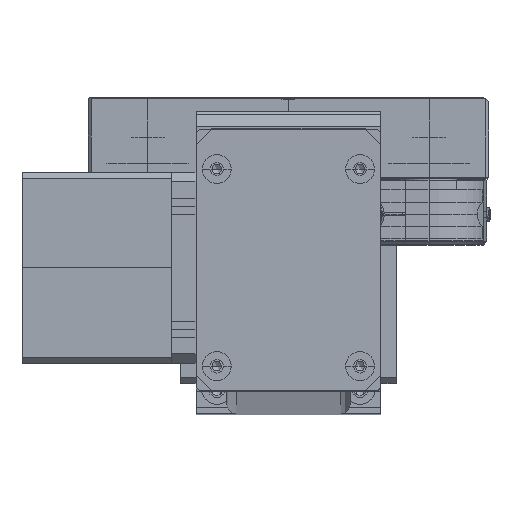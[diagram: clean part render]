
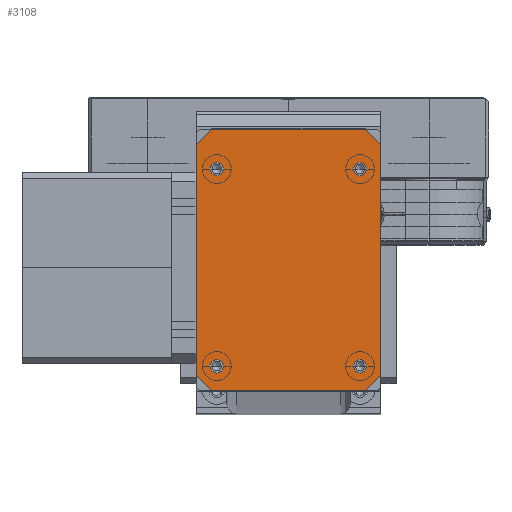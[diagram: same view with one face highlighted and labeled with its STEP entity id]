
A CAD part, top view. The second image highlights one B-rep face of the part: STEP entity #3108.
In plain terms, the highlighted planar face has unit normal (0, 0, 1) as drawn and (0, 0, -1) by its records, which use the part's own axes.
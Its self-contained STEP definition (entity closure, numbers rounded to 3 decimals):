
#42 = VERTEX_POINT ( 'NONE', #1137 ) ;
#101 = CARTESIAN_POINT ( 'NONE',  ( 55.5, 8., 0. ) ) ;
#217 = CARTESIAN_POINT ( 'NONE',  ( 6.75, 8., 0. ) ) ;
#273 = DIRECTION ( 'NONE',  ( 0., 0., -1. ) ) ;
#703 = EDGE_CURVE ( 'NONE', #12837, #14741, #16860, .T. ) ;
#920 = VECTOR ( 'NONE', #5838, 1000. ) ;
#1098 = VERTEX_POINT ( 'NONE', #15007 ) ;
#1137 = CARTESIAN_POINT ( 'NONE',  ( 4.5, 72., 0. ) ) ;
#1202 = VECTOR ( 'NONE', #11401, 1000. ) ;
#1548 = CARTESIAN_POINT ( 'NONE',  ( 51., 72., 0. ) ) ;
#1719 = AXIS2_PLACEMENT_3D ( 'NONE', #12749, #9625, #4556 ) ;
#1908 = VERTEX_POINT ( 'NONE', #7822 ) ;
#1976 = VERTEX_POINT ( 'NONE', #7701 ) ;
#2028 = DIRECTION ( 'NONE',  ( -1., 0., 0. ) ) ;
#2083 = CARTESIAN_POINT ( 'NONE',  ( 9., 72., 0. ) ) ;
#2292 = DIRECTION ( 'NONE',  ( -1., 0., 0. ) ) ;
#2297 = AXIS2_PLACEMENT_3D ( 'NONE', #14552, #4540, #6243 ) ;
#2303 = EDGE_CURVE ( 'NONE', #18530, #16286, #5837, .T. ) ;
#2306 = VERTEX_POINT ( 'NONE', #13808 ) ;
#2454 = CARTESIAN_POINT ( 'NONE',  ( 6.75, 72., 0. ) ) ;
#2481 = CARTESIAN_POINT ( 'NONE',  ( 2.5, 2.5, 0. ) ) ;
#3108 = ADVANCED_FACE ( 'NONE', ( #3134, #9704, #6566, #18002, #16509 ), #13052, .T. ) ;
#3134 = FACE_BOUND ( 'NONE', #7512, .T. ) ;
#3325 = LINE ( 'NONE', #13113, #1202 ) ;
#3551 = DIRECTION ( 'NONE',  ( 0., 1., 0. ) ) ;
#3632 = VERTEX_POINT ( 'NONE', #20383 ) ;
#3707 = EDGE_CURVE ( 'NONE', #8071, #42, #11887, .T. ) ;
#3878 = DIRECTION ( 'NONE',  ( 0., -1., 0. ) ) ;
#3939 = CIRCLE ( 'NONE', #14263, 2.25 ) ;
#4303 = CARTESIAN_POINT ( 'NONE',  ( 6.75, 72., 0. ) ) ;
#4362 = AXIS2_PLACEMENT_3D ( 'NONE', #9759, #12610, #14734 ) ;
#4540 = DIRECTION ( 'NONE',  ( 0., 0., -1. ) ) ;
#4549 = VERTEX_POINT ( 'NONE', #11474 ) ;
#4556 = DIRECTION ( 'NONE',  ( -1., 0., 0. ) ) ;
#4647 = ORIENTED_EDGE ( 'NONE', *, *, #4894, .F. ) ;
#4894 = EDGE_CURVE ( 'NONE', #4549, #13913, #15783, .T. ) ;
#5171 = DIRECTION ( 'NONE',  ( -1., 0., 0. ) ) ;
#5215 = EDGE_LOOP ( 'NONE', ( #11481, #4647 ) ) ;
#5371 = CARTESIAN_POINT ( 'NONE',  ( 51., 8., 0. ) ) ;
#5386 = EDGE_CURVE ( 'NONE', #2306, #12300, #19830, .T. ) ;
#5485 = LINE ( 'NONE', #16921, #17545 ) ;
#5742 = CARTESIAN_POINT ( 'NONE',  ( 27.5, -27.5, 0. ) ) ;
#5788 = DIRECTION ( 'NONE',  ( 0., 0., -1. ) ) ;
#5837 = CIRCLE ( 'NONE', #7900, 2.25 ) ;
#5838 = DIRECTION ( 'NONE',  ( -0.707, -0.707, 0. ) ) ;
#5957 = ORIENTED_EDGE ( 'NONE', *, *, #18649, .F. ) ;
#5979 = CIRCLE ( 'NONE', #11840, 2.25 ) ;
#6008 = VECTOR ( 'NONE', #11625, 1000. ) ;
#6243 = DIRECTION ( 'NONE',  ( -1., 0., 0. ) ) ;
#6281 = ORIENTED_EDGE ( 'NONE', *, *, #703, .T. ) ;
#6379 = VECTOR ( 'NONE', #19859, 1000. ) ;
#6566 = FACE_BOUND ( 'NONE', #5215, .T. ) ;
#7448 = CIRCLE ( 'NONE', #4362, 2.25 ) ;
#7512 = EDGE_LOOP ( 'NONE', ( #11028, #11144 ) ) ;
#7701 = CARTESIAN_POINT ( 'NONE',  ( 60., 80., 0. ) ) ;
#7822 = CARTESIAN_POINT ( 'NONE',  ( 0., 5., 0. ) ) ;
#7900 = AXIS2_PLACEMENT_3D ( 'NONE', #16843, #10364, #2292 ) ;
#8039 = ORIENTED_EDGE ( 'NONE', *, *, #15590, .T. ) ;
#8071 = VERTEX_POINT ( 'NONE', #2083 ) ;
#8158 = ORIENTED_EDGE ( 'NONE', *, *, #17828, .F. ) ;
#8360 = CARTESIAN_POINT ( 'NONE',  ( -40., 40., 0. ) ) ;
#8553 = DIRECTION ( 'NONE',  ( -1., 0., 0. ) ) ;
#8961 = ORIENTED_EDGE ( 'NONE', *, *, #2303, .F. ) ;
#9076 = EDGE_CURVE ( 'NONE', #12837, #1976, #13044, .T. ) ;
#9313 = EDGE_CURVE ( 'NONE', #2306, #1908, #5485, .T. ) ;
#9460 = AXIS2_PLACEMENT_3D ( 'NONE', #2454, #5788, #14090 ) ;
#9532 = EDGE_LOOP ( 'NONE', ( #11869, #19120 ) ) ;
#9625 = DIRECTION ( 'NONE',  ( 0., 0., -1. ) ) ;
#9704 = FACE_BOUND ( 'NONE', #13328, .T. ) ;
#9759 = CARTESIAN_POINT ( 'NONE',  ( 6.75, 8., 0. ) ) ;
#9816 = EDGE_CURVE ( 'NONE', #15917, #10642, #18949, .T. ) ;
#10236 = DIRECTION ( 'NONE',  ( 0., 0., -1. ) ) ;
#10244 = CARTESIAN_POINT ( 'NONE',  ( 60., 0., 0. ) ) ;
#10312 = DIRECTION ( 'NONE',  ( 0.707, 0.707, 0. ) ) ;
#10364 = DIRECTION ( 'NONE',  ( 0., 0., -1. ) ) ;
#10496 = CARTESIAN_POINT ( 'NONE',  ( 9., 8., 0. ) ) ;
#10642 = VERTEX_POINT ( 'NONE', #101 ) ;
#10656 = EDGE_CURVE ( 'NONE', #42, #8071, #11158, .T. ) ;
#10786 = DIRECTION ( 'NONE',  ( -0.707, 0.707, 0. ) ) ;
#11028 = ORIENTED_EDGE ( 'NONE', *, *, #3707, .F. ) ;
#11144 = ORIENTED_EDGE ( 'NONE', *, *, #10656, .F. ) ;
#11158 = CIRCLE ( 'NONE', #18048, 2.25 ) ;
#11401 = DIRECTION ( 'NONE',  ( 0.707, -0.707, 0. ) ) ;
#11474 = CARTESIAN_POINT ( 'NONE',  ( 4.5, 8., 0. ) ) ;
#11481 = ORIENTED_EDGE ( 'NONE', *, *, #21292, .F. ) ;
#11625 = DIRECTION ( 'NONE',  ( -1., 0., 0. ) ) ;
#11840 = AXIS2_PLACEMENT_3D ( 'NONE', #18165, #273, #8553 ) ;
#11869 = ORIENTED_EDGE ( 'NONE', *, *, #16991, .F. ) ;
#11887 = CIRCLE ( 'NONE', #9460, 2.25 ) ;
#11936 = ORIENTED_EDGE ( 'NONE', *, *, #5386, .T. ) ;
#12300 = VERTEX_POINT ( 'NONE', #17928 ) ;
#12591 = CARTESIAN_POINT ( 'NONE',  ( 55., 0., 0. ) ) ;
#12610 = DIRECTION ( 'NONE',  ( 0., 0., -1. ) ) ;
#12749 = CARTESIAN_POINT ( 'NONE',  ( 53.25, 8., 0. ) ) ;
#12837 = VERTEX_POINT ( 'NONE', #16185 ) ;
#13044 = LINE ( 'NONE', #10244, #20699 ) ;
#13052 = PLANE ( 'NONE',  #2297 ) ;
#13113 = CARTESIAN_POINT ( 'NONE',  ( 70., 70., 0. ) ) ;
#13328 = EDGE_LOOP ( 'NONE', ( #8961, #19612 ) ) ;
#13530 = VECTOR ( 'NONE', #10786, 1000. ) ;
#13808 = CARTESIAN_POINT ( 'NONE',  ( 0., 80., 0. ) ) ;
#13913 = VERTEX_POINT ( 'NONE', #10496 ) ;
#14090 = DIRECTION ( 'NONE',  ( -1., 0., 0. ) ) ;
#14120 = CARTESIAN_POINT ( 'NONE',  ( 55.5, 72., 0. ) ) ;
#14163 = ORIENTED_EDGE ( 'NONE', *, *, #17692, .T. ) ;
#14263 = AXIS2_PLACEMENT_3D ( 'NONE', #17048, #16836, #5171 ) ;
#14552 = CARTESIAN_POINT ( 'NONE',  ( 0., 0., 0. ) ) ;
#14712 = ORIENTED_EDGE ( 'NONE', *, *, #9076, .F. ) ;
#14734 = DIRECTION ( 'NONE',  ( -1., 0., 0. ) ) ;
#14741 = VERTEX_POINT ( 'NONE', #12591 ) ;
#15007 = CARTESIAN_POINT ( 'NONE',  ( 5., 0., 0. ) ) ;
#15431 = AXIS2_PLACEMENT_3D ( 'NONE', #217, #10236, #2028 ) ;
#15590 = EDGE_CURVE ( 'NONE', #1098, #1908, #17259, .T. ) ;
#15749 = DIRECTION ( 'NONE',  ( 0., 0., -1. ) ) ;
#15783 = CIRCLE ( 'NONE', #15431, 2.25 ) ;
#15917 = VERTEX_POINT ( 'NONE', #5371 ) ;
#16185 = CARTESIAN_POINT ( 'NONE',  ( 60., 5., 0. ) ) ;
#16286 = VERTEX_POINT ( 'NONE', #1548 ) ;
#16509 = FACE_OUTER_BOUND ( 'NONE', #18256, .T. ) ;
#16596 = CARTESIAN_POINT ( 'NONE',  ( 0., 0., 0. ) ) ;
#16836 = DIRECTION ( 'NONE',  ( 0., 0., -1. ) ) ;
#16843 = CARTESIAN_POINT ( 'NONE',  ( 53.25, 72., 0. ) ) ;
#16860 = LINE ( 'NONE', #5742, #920 ) ;
#16921 = CARTESIAN_POINT ( 'NONE',  ( 0., 0., 0. ) ) ;
#16922 = DIRECTION ( 'NONE',  ( -1., 0., 0. ) ) ;
#16991 = EDGE_CURVE ( 'NONE', #10642, #15917, #3939, .T. ) ;
#17048 = CARTESIAN_POINT ( 'NONE',  ( 53.25, 8., 0. ) ) ;
#17259 = LINE ( 'NONE', #2481, #13530 ) ;
#17545 = VECTOR ( 'NONE', #3878, 1000. ) ;
#17692 = EDGE_CURVE ( 'NONE', #3632, #1976, #3325, .T. ) ;
#17828 = EDGE_CURVE ( 'NONE', #3632, #12300, #18398, .T. ) ;
#17928 = CARTESIAN_POINT ( 'NONE',  ( 5., 85., 0. ) ) ;
#18002 = FACE_BOUND ( 'NONE', #9532, .T. ) ;
#18048 = AXIS2_PLACEMENT_3D ( 'NONE', #4303, #15749, #16922 ) ;
#18165 = CARTESIAN_POINT ( 'NONE',  ( 53.25, 72., 0. ) ) ;
#18256 = EDGE_LOOP ( 'NONE', ( #5957, #8039, #20930, #11936, #8158, #14163, #14712, #6281 ) ) ;
#18398 = LINE ( 'NONE', #20033, #6008 ) ;
#18530 = VERTEX_POINT ( 'NONE', #14120 ) ;
#18649 = EDGE_CURVE ( 'NONE', #1098, #14741, #21153, .T. ) ;
#18949 = CIRCLE ( 'NONE', #1719, 2.25 ) ;
#19120 = ORIENTED_EDGE ( 'NONE', *, *, #9816, .F. ) ;
#19446 = VECTOR ( 'NONE', #10312, 1000. ) ;
#19612 = ORIENTED_EDGE ( 'NONE', *, *, #19658, .F. ) ;
#19658 = EDGE_CURVE ( 'NONE', #16286, #18530, #5979, .T. ) ;
#19830 = LINE ( 'NONE', #8360, #19446 ) ;
#19859 = DIRECTION ( 'NONE',  ( 1., 0., 0. ) ) ;
#20033 = CARTESIAN_POINT ( 'NONE',  ( 0., 85., 0. ) ) ;
#20383 = CARTESIAN_POINT ( 'NONE',  ( 55., 85., 0. ) ) ;
#20699 = VECTOR ( 'NONE', #3551, 1000. ) ;
#20930 = ORIENTED_EDGE ( 'NONE', *, *, #9313, .F. ) ;
#21153 = LINE ( 'NONE', #16596, #6379 ) ;
#21292 = EDGE_CURVE ( 'NONE', #13913, #4549, #7448, .T. ) ;
